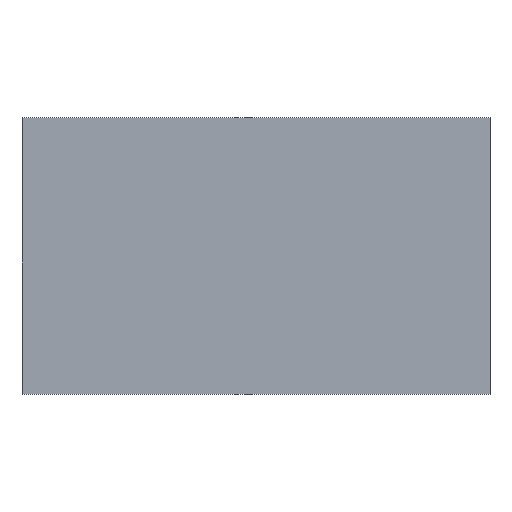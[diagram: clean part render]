
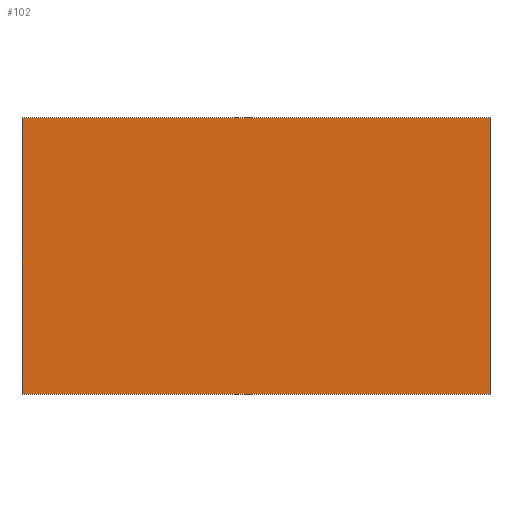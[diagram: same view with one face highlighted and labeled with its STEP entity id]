
A CAD part, top view. The second image highlights one B-rep face of the part: STEP entity #102.
In plain terms, the highlighted planar face has unit normal (0, 0, 1).
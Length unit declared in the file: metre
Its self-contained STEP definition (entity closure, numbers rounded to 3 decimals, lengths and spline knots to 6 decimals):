
#28=ORIENTED_EDGE('',*,*,#38,.F.);
#29=ORIENTED_EDGE('',*,*,#42,.T.);
#30=ORIENTED_EDGE('',*,*,#45,.T.);
#31=ORIENTED_EDGE('',*,*,#47,.F.);
#38=EDGE_CURVE('',#50,#51,#58,.T.);
#42=EDGE_CURVE('',#50,#53,#62,.T.);
#45=EDGE_CURVE('',#53,#55,#65,.T.);
#47=EDGE_CURVE('',#51,#55,#67,.T.);
#50=VERTEX_POINT('',#155);
#51=VERTEX_POINT('',#157);
#53=VERTEX_POINT('',#163);
#55=VERTEX_POINT('',#169);
#58=LINE('',#156,#70);
#62=LINE('',#164,#74);
#65=LINE('',#170,#77);
#67=LINE('',#173,#79);
#70=VECTOR('',#129,1.);
#74=VECTOR('',#135,1.);
#77=VECTOR('',#140,1.);
#79=VECTOR('',#144,1.);
#84=EDGE_LOOP('',(#28,#29,#30,#31));
#90=FACE_BOUND('',#84,.T.);
#96=PLANE('',#121);
#102=ADVANCED_FACE('',(#90),#96,.T.);
#121=AXIS2_PLACEMENT_3D('',#174,#145,#146);
#129=DIRECTION('',(-1.,0.,0.));
#135=DIRECTION('',(0.,1.,0.));
#140=DIRECTION('',(-1.,0.,0.));
#144=DIRECTION('',(0.,1.,0.));
#145=DIRECTION('',(0.,0.,1.));
#146=DIRECTION('',(1.,0.,0.));
#155=CARTESIAN_POINT('',(0.038825,0.068549,0.0045));
#156=CARTESIAN_POINT('',(-0.010225,0.068549,0.0045));
#157=CARTESIAN_POINT('',(-0.055275,0.068549,0.0045));
#163=CARTESIAN_POINT('',(0.038825,0.124199,0.0045));
#164=CARTESIAN_POINT('',(0.038825,0.096374,0.0045));
#169=CARTESIAN_POINT('',(-0.055275,0.124199,0.0045));
#170=CARTESIAN_POINT('',(-0.010225,0.124199,0.0045));
#173=CARTESIAN_POINT('',(-0.055275,0.096374,0.0045));
#174=CARTESIAN_POINT('',(-0.008225,0.096374,0.0045));
